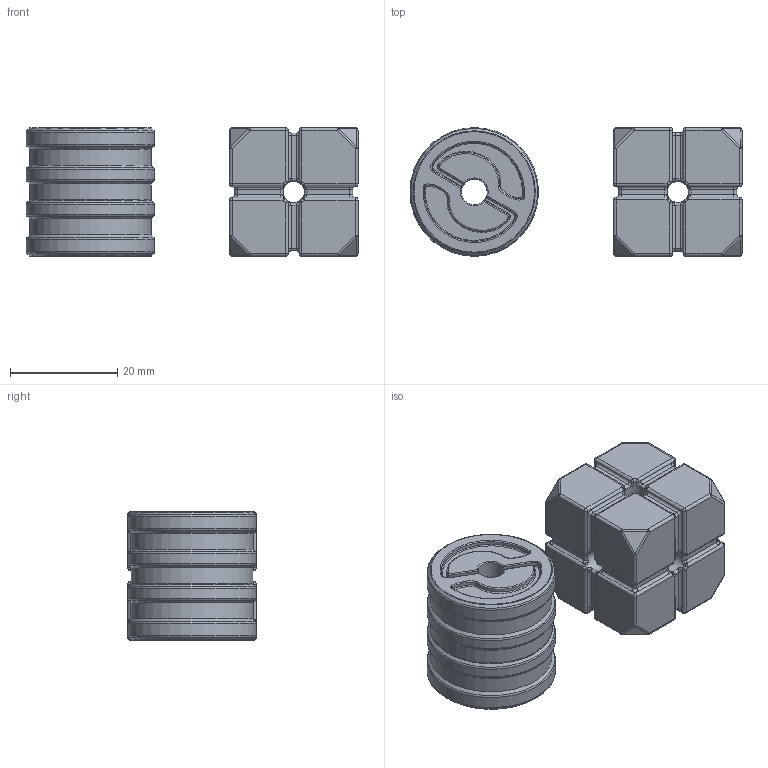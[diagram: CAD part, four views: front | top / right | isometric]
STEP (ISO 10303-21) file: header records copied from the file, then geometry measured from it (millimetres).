
FILE_DESCRIPTION(/* description */ (''),/* implementation_level */ '2;1');
FILE_NAME(/* name */ '/Users/jmac/Desktop/CAD Refresh/Boxes & Barrels/Boxes & Barrels.step',/* time_stamp */ '2022-09-21T15:44:15-06:00',/* author */ (''),/* organization */ (''),/* preprocessor_version */ 'ST-DEVELOPER v19',/* originating_system */ 'Autodesk Translation Framework v11.7.0.108',/* authorisation */ '');
FILE_SCHEMA (('AUTOMOTIVE_DESIGN { 1 0 10303 214 3 1 1 }'));
Length unit declared in the file: millimetre
Products named in the file (3): Boxes & Barrels_CAD Library; Barrel; Box
Assembly tree (2 placements, depth 2):
  Boxes & Barrels_CAD Library
    Barrel
    Box
Bounding box: 62 x 24 x 24 mm (x, y, z)
Volume: 22067.1 mm3; surface area: 7411.6 mm2
Topology: 2 solids, 2 shells, 747 faces, 1657 edges, 847 vertices
Faces by surface type: cylinder 234, bspline 185, plane 142, torus 91, sphere 87, cone 8
Full cylindrical faces by diameter (mm): 4 x6, 4.8 x1, 22.7 x3, 24 x4
Entity records: 36572 total; most frequent: CARTESIAN_POINT 21485, ORIENTED_EDGE 3200, DIRECTION 3002, EDGE_CURVE 1600, AXIS2_PLACEMENT_3D 1228, VERTEX_POINT 847, EDGE_LOOP 749, FACE_OUTER_BOUND 747
